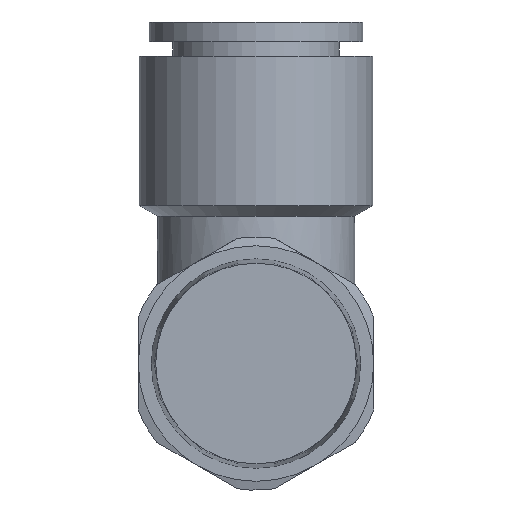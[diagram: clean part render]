
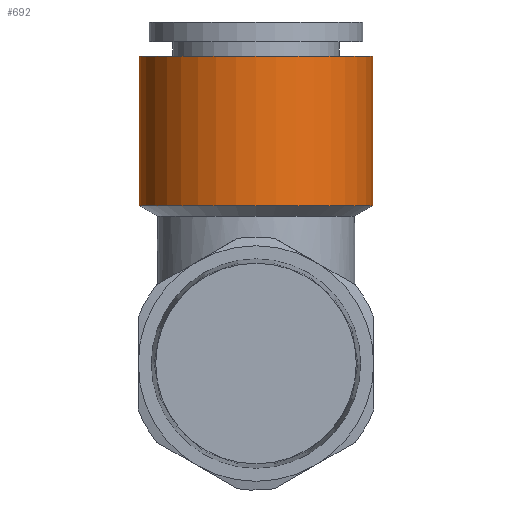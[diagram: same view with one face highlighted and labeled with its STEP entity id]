
A CAD part, front view. The second image highlights one B-rep face of the part: STEP entity #692.
In plain terms, the highlighted cylindrical face has radius 11.9 mm (diameter 23.8 mm), a full revolution.
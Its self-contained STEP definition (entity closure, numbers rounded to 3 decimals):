
#83=CYLINDRICAL_SURFACE('',#795,11.9);
#125=CIRCLE('',#794,11.9);
#126=CIRCLE('',#796,11.9);
#311=ORIENTED_EDGE('',*,*,#411,.F.);
#312=ORIENTED_EDGE('',*,*,#410,.T.);
#410=EDGE_CURVE('',#474,#474,#125,.T.);
#411=EDGE_CURVE('',#475,#475,#126,.T.);
#474=VERTEX_POINT('',#1317);
#475=VERTEX_POINT('',#1320);
#565=EDGE_LOOP('',(#311));
#566=EDGE_LOOP('',(#312));
#626=FACE_BOUND('',#565,.T.);
#627=FACE_BOUND('',#566,.T.);
#692=ADVANCED_FACE('',(#626,#627),#83,.T.);
#794=AXIS2_PLACEMENT_3D('',#1316,#989,#990);
#795=AXIS2_PLACEMENT_3D('',#1318,#991,#992);
#796=AXIS2_PLACEMENT_3D('',#1319,#993,#994);
#989=DIRECTION('',(0.,0.,-1.));
#990=DIRECTION('',(0.,1.,0.));
#991=DIRECTION('',(0.,0.,-1.));
#992=DIRECTION('',(0.,1.,0.));
#993=DIRECTION('',(0.,0.,-1.));
#994=DIRECTION('',(0.,1.,0.));
#1316=CARTESIAN_POINT('',(0.,25.6,31.3));
#1317=CARTESIAN_POINT('',(0.,37.5,31.3));
#1318=CARTESIAN_POINT('',(0.,25.6,0.));
#1319=CARTESIAN_POINT('',(0.,25.6,16.1));
#1320=CARTESIAN_POINT('',(0.,37.5,16.1));
